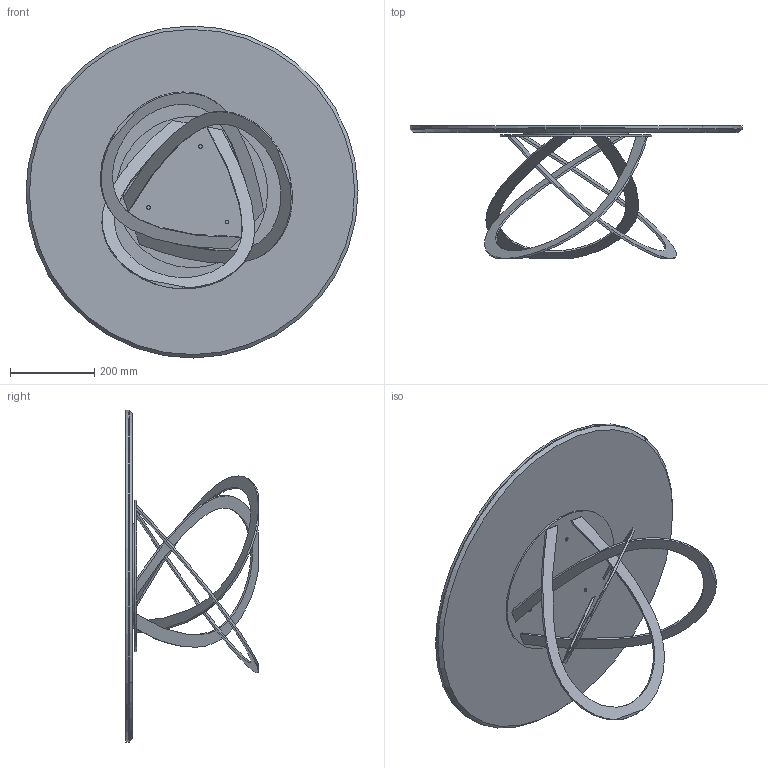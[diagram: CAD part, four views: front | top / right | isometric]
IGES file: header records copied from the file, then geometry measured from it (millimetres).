
Start section: SolidWorks IGES file using analytic representation for surfaces
Global section: file name: Y:\eforma\TECNICO\SOLIDWORKS\E-FORMA\2-TAVOLINI\FEBE LOW\02 parts\FL12C_Febe Low_d80xh32_Ceramic.IGS; native system: SolidWorks 2022; preprocessor: SolidWorks 2022; author: eforma.tech; date: 240806.110012; units: millimetre
Bounding box: 789.98 x 315.55 x 789.98 mm (x, y, z)
Volume: 8997814.2 mm3; surface area: 2550078.5 mm2
Topology: 7 solids, 7 shells, 89 faces, 202 edges, 133 vertices
Faces by surface type: plane 41, revolution 30, bspline 18
